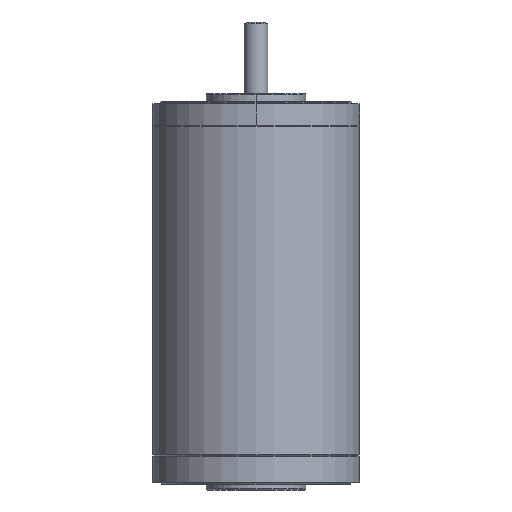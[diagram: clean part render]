
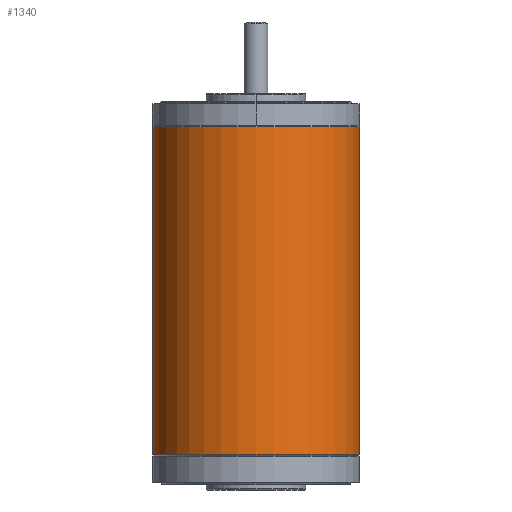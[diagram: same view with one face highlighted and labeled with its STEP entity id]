
A CAD part, front view. The second image highlights one B-rep face of the part: STEP entity #1340.
In plain terms, the highlighted cylindrical face has radius 26 mm (diameter 52 mm), a partial arc.
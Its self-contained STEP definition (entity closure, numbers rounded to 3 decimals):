
#460 = VERTEX_POINT ( 'NONE', #2870 ) ;
#751 = VERTEX_POINT ( 'NONE', #3702 ) ;
#754 = VERTEX_POINT ( 'NONE', #3696 ) ;
#758 = VERTEX_POINT ( 'NONE', #3691 ) ;
#760 = EDGE_CURVE ( 'NONE', #754, #758, #3614, .T. ) ;
#764 = EDGE_CURVE ( 'NONE', #751, #460, #3609, .T. ) ;
#1238 = ORIENTED_EDGE ( 'NONE', *, *, #760, .T. ) ;
#1339 = EDGE_CURVE ( 'NONE', #460, #758, #4635, .T. ) ;
#1340 = ADVANCED_FACE ( 'NONE', ( #4663 ), #4928, .T. ) ;
#1341 = EDGE_LOOP ( 'NONE', ( #1342, #1343, #1238, #1424 ) ) ;
#1342 = ORIENTED_EDGE ( 'NONE', *, *, #764, .F. ) ;
#1343 = ORIENTED_EDGE ( 'NONE', *, *, #1428, .T. ) ;
#1424 = ORIENTED_EDGE ( 'NONE', *, *, #1339, .F. ) ;
#1428 = EDGE_CURVE ( 'NONE', #751, #754, #4966, .T. ) ;
#2870 = CARTESIAN_POINT ( 'NONE',  ( -26., 0., -8.3 ) ) ;
#3606 = DIRECTION ( 'NONE',  ( 0., 0., 1. ) ) ;
#3607 = VECTOR ( 'NONE', #3606, 1000. ) ;
#3608 = CARTESIAN_POINT ( 'NONE',  ( -26., 0., -8. ) ) ;
#3609 = LINE ( 'NONE', #3608, #3607 ) ;
#3611 = DIRECTION ( 'NONE',  ( 0., 0., 1. ) ) ;
#3612 = VECTOR ( 'NONE', #3611, 1000. ) ;
#3613 = CARTESIAN_POINT ( 'NONE',  ( 26., 0., -8. ) ) ;
#3614 = LINE ( 'NONE', #3613, #3612 ) ;
#3691 = CARTESIAN_POINT ( 'NONE',  ( 26., 0., -8.3 ) ) ;
#3696 = CARTESIAN_POINT ( 'NONE',  ( 26., 0., -90.7 ) ) ;
#3702 = CARTESIAN_POINT ( 'NONE',  ( -26., 0., -90.7 ) ) ;
#4635 = CIRCLE ( 'NONE', #4667, 26. ) ;
#4663 = FACE_OUTER_BOUND ( 'NONE', #1341, .T. ) ;
#4664 = DIRECTION ( 'NONE',  ( 1., 0., 0. ) ) ;
#4665 = DIRECTION ( 'NONE',  ( 0., 0., 1. ) ) ;
#4666 = CARTESIAN_POINT ( 'NONE',  ( 0., 0., -8.3 ) ) ;
#4667 = AXIS2_PLACEMENT_3D ( 'NONE', #4666, #4665, #4664 ) ;
#4925 = DIRECTION ( 'NONE',  ( 1., 0., 0. ) ) ;
#4926 = DIRECTION ( 'NONE',  ( 0., 0., 1. ) ) ;
#4927 = AXIS2_PLACEMENT_3D ( 'NONE', #4929, #4926, #4925 ) ;
#4928 = CYLINDRICAL_SURFACE ( 'NONE', #4927, 26. ) ;
#4929 = CARTESIAN_POINT ( 'NONE',  ( 0., 0., -8. ) ) ;
#4962 = DIRECTION ( 'NONE',  ( 1., 0., 0. ) ) ;
#4963 = DIRECTION ( 'NONE',  ( 0., 0., 1. ) ) ;
#4964 = CARTESIAN_POINT ( 'NONE',  ( 0., 0., -90.7 ) ) ;
#4965 = AXIS2_PLACEMENT_3D ( 'NONE', #4964, #4963, #4962 ) ;
#4966 = CIRCLE ( 'NONE', #4965, 26. ) ;
